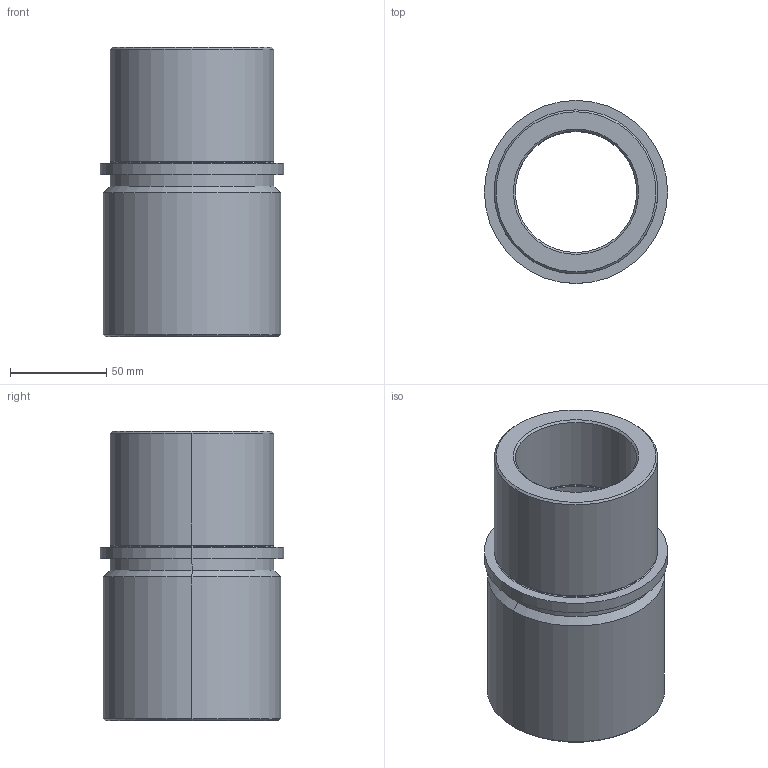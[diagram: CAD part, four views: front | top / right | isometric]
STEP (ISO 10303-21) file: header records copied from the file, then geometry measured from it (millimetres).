
FILE_DESCRIPTION (( 'STEP AP214' ), '1' );
FILE_NAME ('Casquillo SB500-63-150 b.STEP', '2019-01-10T13:40:08', ( '' ), ( '' ), 'SwSTEP 2.0', 'SolidWorks 2018', '' );
FILE_SCHEMA (( 'AUTOMOTIVE_DESIGN' ));
Length unit declared in the file: millimetre
Products named in the file (1): Casquillo SB500-63-150 b
Bounding box: 95 x 95 x 150 mm (x, y, z)
Volume: 465624.9 mm3; surface area: 80748 mm2
Topology: 1 solids, 1 shells, 40 faces, 80 edges, 44 vertices
Faces by surface type: cylinder 14, torus 12, cone 10, plane 4
Entity records: 1074 total; most frequent: DIRECTION 218, CARTESIAN_POINT 165, ORIENTED_EDGE 160, AXIS2_PLACEMENT_3D 97, EDGE_CURVE 80, CIRCLE 56, EDGE_LOOP 44, VERTEX_POINT 44
